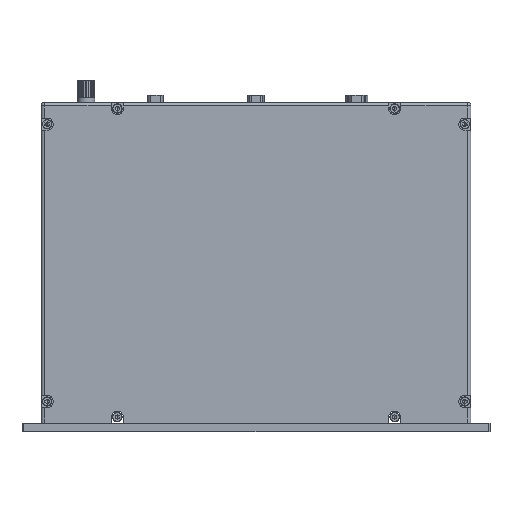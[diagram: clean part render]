
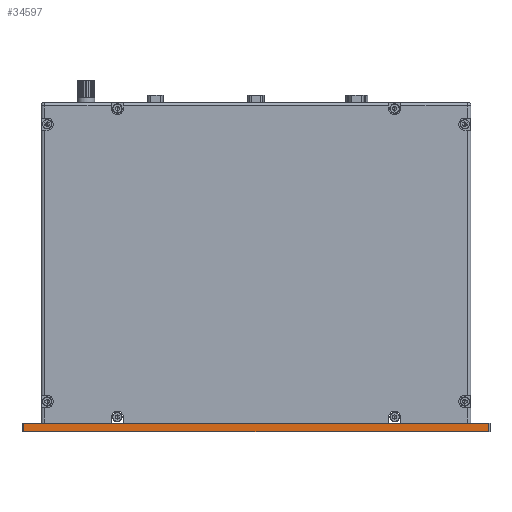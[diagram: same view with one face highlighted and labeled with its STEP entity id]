
A CAD part, front view. The second image highlights one B-rep face of the part: STEP entity #34597.
In plain terms, the highlighted planar face has unit normal (0, -1, 0).
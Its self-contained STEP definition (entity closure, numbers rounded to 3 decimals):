
#2974 = VECTOR ( 'NONE', #35294, 1000. ) ;
#4620 = LINE ( 'NONE', #52453, #44760 ) ;
#12828 = VERTEX_POINT ( 'NONE', #55343 ) ;
#13388 = FACE_OUTER_BOUND ( 'NONE', #63505, .T. ) ;
#14263 = CARTESIAN_POINT ( 'NONE',  ( -132.969, -37.237, 244. ) ) ;
#14838 = VERTEX_POINT ( 'NONE', #18700 ) ;
#17854 = DIRECTION ( 'NONE',  ( 1., 0., 0. ) ) ;
#18700 = CARTESIAN_POINT ( 'NONE',  ( 135.031, -37.237, 244. ) ) ;
#21135 = CARTESIAN_POINT ( 'NONE',  ( -133.969, -37.237, 249. ) ) ;
#26571 = DIRECTION ( 'NONE',  ( 0., 0., -1. ) ) ;
#28205 = EDGE_CURVE ( 'NONE', #12828, #63170, #40802, .T. ) ;
#28481 = LINE ( 'NONE', #63590, #76814 ) ;
#28917 = CARTESIAN_POINT ( 'NONE',  ( 135.031, -37.237, 249. ) ) ;
#30658 = VERTEX_POINT ( 'NONE', #14263 ) ;
#32934 = ORIENTED_EDGE ( 'NONE', *, *, #28205, .F. ) ;
#33771 = CARTESIAN_POINT ( 'NONE',  ( -133.969, -37.237, 249. ) ) ;
#34597 = ADVANCED_FACE ( 'NONE', ( #13388 ), #80306, .F. ) ;
#35294 = DIRECTION ( 'NONE',  ( 0., 0., 1. ) ) ;
#37405 = EDGE_CURVE ( 'NONE', #30658, #14838, #28481, .T. ) ;
#38575 = EDGE_CURVE ( 'NONE', #12828, #30658, #4620, .T. ) ;
#40802 = LINE ( 'NONE', #21135, #52040 ) ;
#44760 = VECTOR ( 'NONE', #26571, 1000. ) ;
#45776 = ORIENTED_EDGE ( 'NONE', *, *, #37405, .T. ) ;
#46232 = AXIS2_PLACEMENT_3D ( 'NONE', #33771, #46961, #54135 ) ;
#46961 = DIRECTION ( 'NONE',  ( 0., 1., 0. ) ) ;
#47222 = CARTESIAN_POINT ( 'NONE',  ( 135.031, -37.237, 249. ) ) ;
#48809 = ORIENTED_EDGE ( 'NONE', *, *, #66107, .T. ) ;
#52040 = VECTOR ( 'NONE', #54503, 1000. ) ;
#52453 = CARTESIAN_POINT ( 'NONE',  ( -132.969, -37.237, 249. ) ) ;
#54135 = DIRECTION ( 'NONE',  ( 0., 0., 1. ) ) ;
#54503 = DIRECTION ( 'NONE',  ( 1., 0., 0. ) ) ;
#55343 = CARTESIAN_POINT ( 'NONE',  ( -132.969, -37.237, 249. ) ) ;
#63170 = VERTEX_POINT ( 'NONE', #47222 ) ;
#63505 = EDGE_LOOP ( 'NONE', ( #45776, #48809, #32934, #71702 ) ) ;
#63590 = CARTESIAN_POINT ( 'NONE',  ( -133.969, -37.237, 244. ) ) ;
#66107 = EDGE_CURVE ( 'NONE', #14838, #63170, #74988, .T. ) ;
#71702 = ORIENTED_EDGE ( 'NONE', *, *, #38575, .T. ) ;
#74988 = LINE ( 'NONE', #28917, #2974 ) ;
#76814 = VECTOR ( 'NONE', #17854, 1000. ) ;
#80306 = PLANE ( 'NONE',  #46232 ) ;
